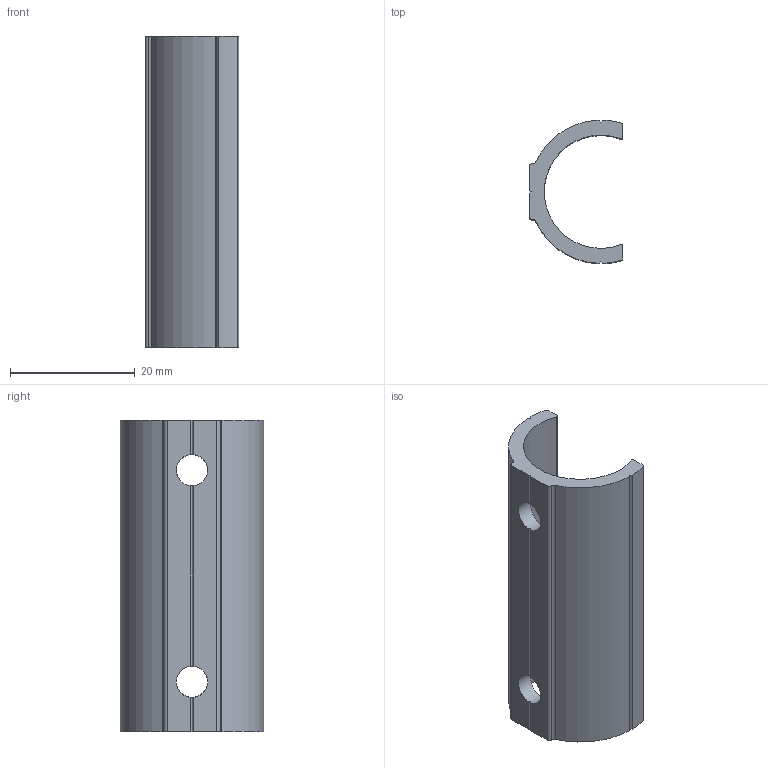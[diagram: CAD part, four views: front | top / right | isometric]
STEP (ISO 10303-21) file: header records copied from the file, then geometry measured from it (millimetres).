
FILE_DESCRIPTION((''),'2;1');
FILE_NAME('C:\Vault Klient\Projekt\Step\300-3091.stp','2009-12-10T07:33:04',('Mathias'),(''),'Autodesk Inventor 2010','Autodesk Inventor 2010','');
FILE_SCHEMA(('CONFIG_CONTROL_DESIGN'));
Length unit declared in the file: millimetre
Products named in the file (1): 300-3091
Bounding box: 15 x 22.99 x 50 mm (x, y, z)
Volume: 4759.3 mm3; surface area: 4463.2 mm2
Topology: 1 solids, 1 shells, 31 faces, 93 edges, 62 vertices
Faces by surface type: plane 16, cylinder 13, bspline 2
Entity records: 1159 total; most frequent: CARTESIAN_POINT 281, DIRECTION 185, ORIENTED_EDGE 178, EDGE_CURVE 89, AXIS2_PLACEMENT_3D 68, VERTEX_POINT 60, VECTOR 49, LINE 49
